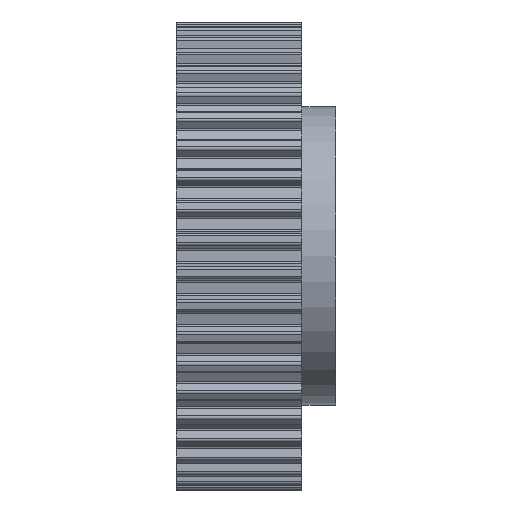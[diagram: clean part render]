
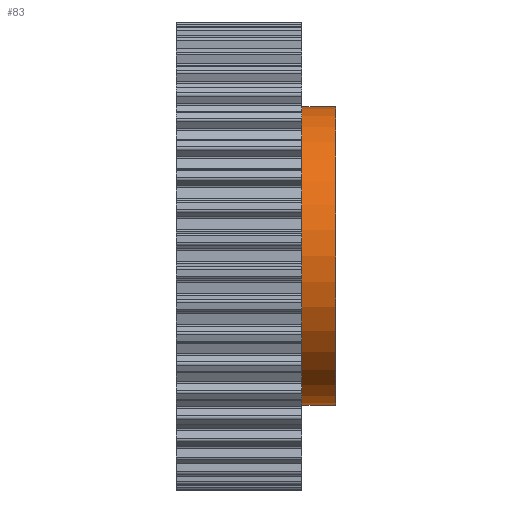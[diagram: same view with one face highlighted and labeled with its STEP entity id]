
A CAD part, front view. The second image highlights one B-rep face of the part: STEP entity #83.
In plain terms, the highlighted cylindrical face has radius 44 mm (diameter 88 mm), a full revolution.
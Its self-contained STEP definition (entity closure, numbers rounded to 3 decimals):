
#83 = ADVANCED_FACE( '', ( #453, #454 ), #455, .T. );
#453 = FACE_OUTER_BOUND( '', #1172, .T. );
#454 = FACE_OUTER_BOUND( '', #1173, .T. );
#455 = CYLINDRICAL_SURFACE( '', #1174, 44. );
#1172 = EDGE_LOOP( '', ( #2621 ) );
#1173 = EDGE_LOOP( '', ( #2622 ) );
#1174 = AXIS2_PLACEMENT_3D( '', #2623, #2624, #2625 );
#2621 = ORIENTED_EDGE( '', *, *, #5772, .T. );
#2622 = ORIENTED_EDGE( '', *, *, #5774, .F. );
#2623 = CARTESIAN_POINT( '', ( 47., 0., 0. ) );
#2624 = DIRECTION( '', ( -1., 0., 0. ) );
#2625 = DIRECTION( '', ( 0., 0., -1. ) );
#5772 = EDGE_CURVE( '', #7537, #7537, #7538, .T. );
#5774 = EDGE_CURVE( '', #7541, #7541, #7542, .T. );
#7537 = VERTEX_POINT( '', #9574 );
#7538 = CIRCLE( '', #9575, 44. );
#7541 = VERTEX_POINT( '', #9578 );
#7542 = CIRCLE( '', #9579, 44. );
#9574 = CARTESIAN_POINT( '', ( 37., 0., -44. ) );
#9575 = AXIS2_PLACEMENT_3D( '', #11866, #11867, #11868 );
#9578 = CARTESIAN_POINT( '', ( 47., 0., -44. ) );
#9579 = AXIS2_PLACEMENT_3D( '', #11872, #11873, #11874 );
#11866 = CARTESIAN_POINT( '', ( 37., 0., 0. ) );
#11867 = DIRECTION( '', ( 1., 0., 0. ) );
#11868 = DIRECTION( '', ( 0., 0., -1. ) );
#11872 = CARTESIAN_POINT( '', ( 47., 0., 0. ) );
#11873 = DIRECTION( '', ( 1., 0., 0. ) );
#11874 = DIRECTION( '', ( 0., 0., -1. ) );
